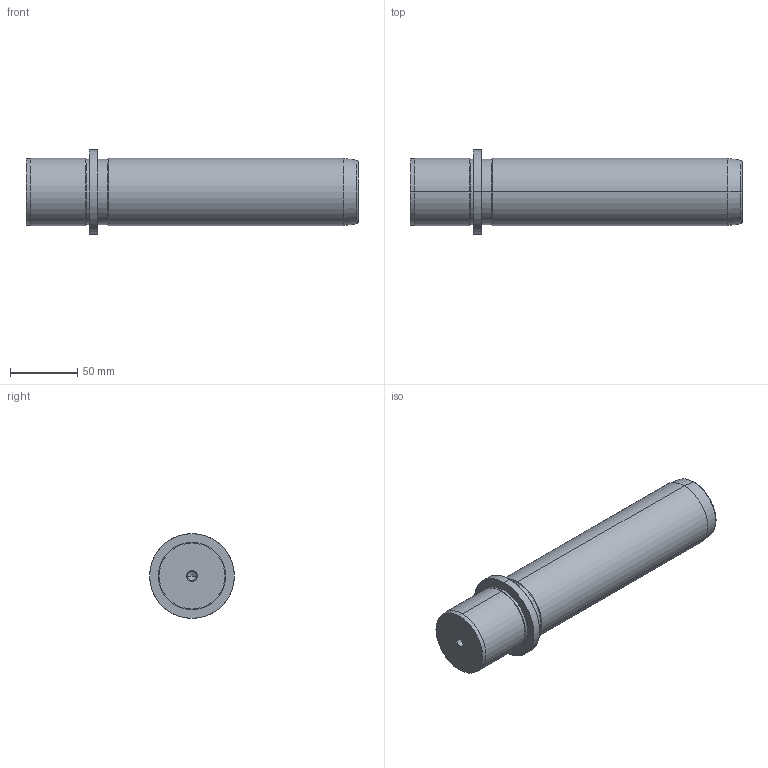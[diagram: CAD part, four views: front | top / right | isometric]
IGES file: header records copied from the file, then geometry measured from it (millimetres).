
Start section: START RECORD GO HERE.
Global section: file name: 719-50x200.igs; native system: DASSAULT SYSTEMES CATIA V5 R20 - www.3ds.com; preprocessor: CATIA Version 5 Release 20 ; author: Utente; organization: NB04-ASUS; date: 20210103.160444; units: millimetre
Bounding box: 247 x 63 x 63 mm (x, y, z)
Surface area: 46082.1 mm2 (no closed solid volume)
Topology: 0 solids, 0 shells, 36 faces, 196 edges, 192 vertices
Faces by surface type: revolution 32, plane 4
